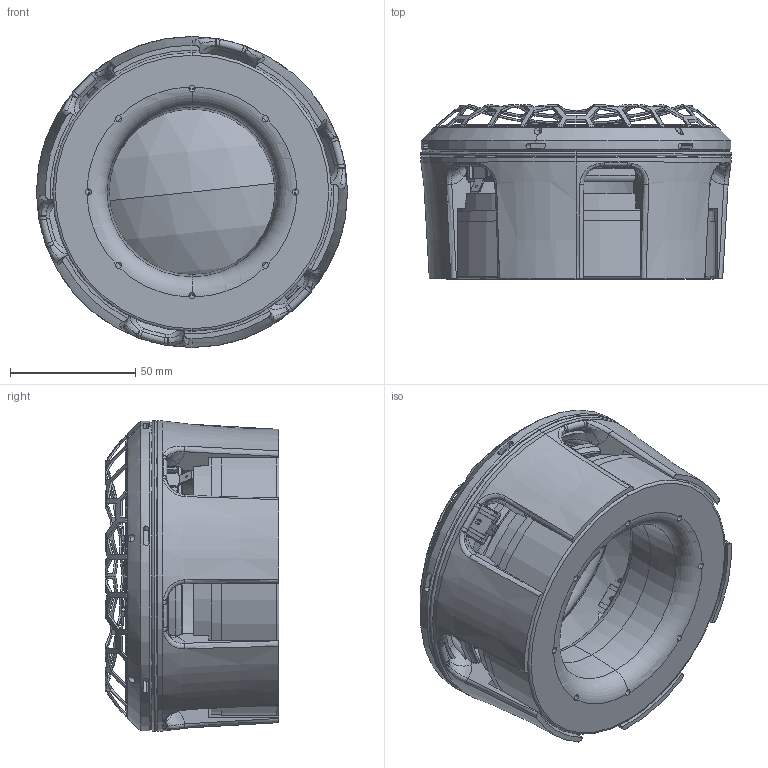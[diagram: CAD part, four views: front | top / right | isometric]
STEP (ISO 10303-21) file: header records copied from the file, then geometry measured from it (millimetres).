
FILE_DESCRIPTION (( 'STEP AP203' ), '1' );
FILE_NAME ('SPK_090_C090-724_01592_V01_reduziert.STEP', '2024-03-28T07:37:35', ( '' ), ( '' ), 'SwSTEP 2.0', 'SolidWorks 2015', '' );
FILE_SCHEMA (( 'CONFIG_CONTROL_DESIGN' ));
Length unit declared in the file: millimetre
Products named in the file (16): PP_081-N110_C090-724_01595_V05; TRM_6.3_Blade gewinkelt_01466_V01; MGS_081-N110_C090-724_01593_V05; TRM_4.8_Blade gewinkelt_01465_V01; GUS_097,00_C090-724_01129_V02; TRM_4.8_Gewinkelt_01462_V01; KRB_124_C090-724-Klemmring_01134_V05; TRM_6.3_Gerade_01463_V01; PK_081-N110_C090-724_01594_V05; TRM_10_Tr輍erpl酹tchen_01464_V1; OHR_115-002_C090-724_01597_V01_Gedehnt124; KRB_124_C090-724_01141_V05; SPK_090_C090-724_01592_V01_reduziert; GIT_124_C090-724_01601_V01_reduziert; CM_090_C090-724_02502_V02; MAG_081-N110_C090-724_01596_V1
Assembly tree (16 placements, depth 3):
  SPK_090_C090-724_01592_V01_reduziert
    KRB_124_C090-724_01141_V05
    TRM_4.8_Gewinkelt_01462_V01
      TRM_10_Tr輍erpl酹tchen_01464_V1
      TRM_4.8_Blade gewinkelt_01465_V01
    TRM_6.3_Gerade_01463_V01
      TRM_10_Tr輍erpl酹tchen_01464_V1
      TRM_6.3_Blade gewinkelt_01466_V01
    GIT_124_C090-724_01601_V01_reduziert
    OHR_115-002_C090-724_01597_V01_Gedehnt124
    KRB_124_C090-724-Klemmring_01134_V05
    MGS_081-N110_C090-724_01593_V05
      PK_081-N110_C090-724_01594_V05
      MAG_081-N110_C090-724_01596_V1
      PP_081-N110_C090-724_01595_V05
    GUS_097,00_C090-724_01129_V02
    CM_090_C090-724_02502_V02
Bounding box: 124 x 69.29 x 124 mm (x, y, z)
Volume: 273099.4 mm3; surface area: 150919.7 mm2
Topology: 13 solids, 13 shells, 1349 faces, 3927 edges, 2470 vertices
Faces by surface type: plane 538, cylinder 346, torus 260, bspline 148, cone 41, sphere 16
Entity records: 59275 total; most frequent: CARTESIAN_POINT 23636, ORIENTED_EDGE 7738, DIRECTION 6726, EDGE_CURVE 3869, AXIS2_PLACEMENT_3D 2803, VERTEX_POINT 2458, CIRCLE 1588, EDGE_LOOP 1417
